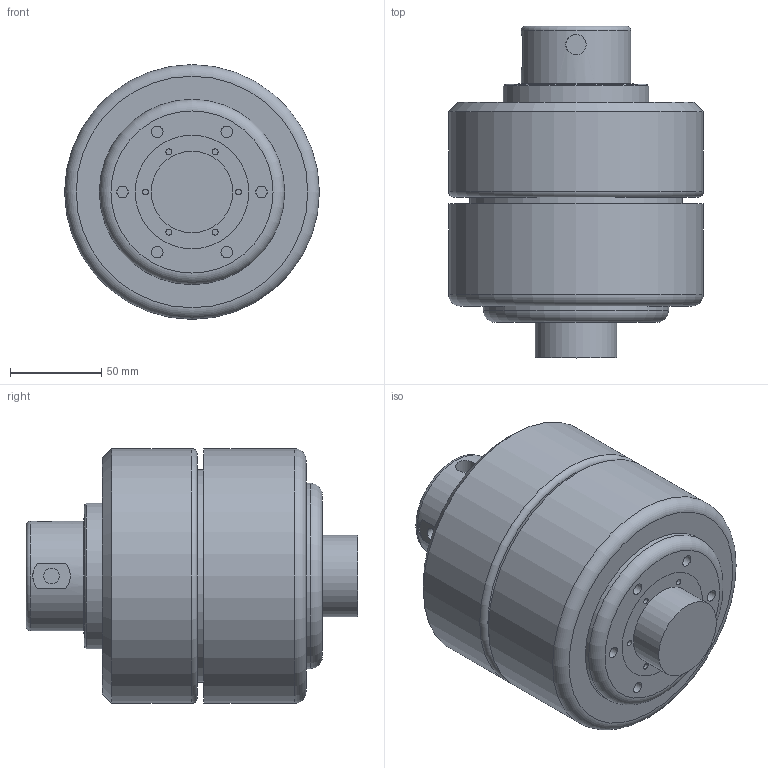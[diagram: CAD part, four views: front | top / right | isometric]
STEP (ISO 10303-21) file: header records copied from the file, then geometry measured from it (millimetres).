
FILE_DESCRIPTION (( 'STEP AP214' ), '1' );
FILE_NAME ('DBA060 TOP MOUNT.STEP', '2013-04-24T16:41:38', ( '' ), ( '' ), 'SwSTEP 2.0', 'SolidWorks 2012', '' );
FILE_SCHEMA (( 'AUTOMOTIVE_DESIGN' ));
Length unit declared in the file: inch
Products named in the file (1): DBA060 TOP MOUNT
Bounding box: 139.7 x 181.99 x 139.7 mm (x, y, z)
Volume: 1921726.7 mm3; surface area: 101862.3 mm2
Topology: 1 solids, 1 shells, 80 faces, 126 edges, 84 vertices
Faces by surface type: plane 38, cylinder 36, torus 4, cone 2
Full cylindrical faces by diameter (mm): 3.251 x18, 6.35 x6, 8.611 x1, 11.125 x1, 44.704 x1, 60.325 x1, 62.63 x1, 80.01 x1, 101.6 x1, 116.611 x1, 139.7 x2
Entity records: 2125 total; most frequent: CARTESIAN_POINT 372, DIRECTION 318, ORIENTED_EDGE 164, AXIS2_PLACEMENT_3D 158, EDGE_LOOP 156, FACE_OUTER_BOUND 118, EDGE_CURVE 82, VERTEX_POINT 80
